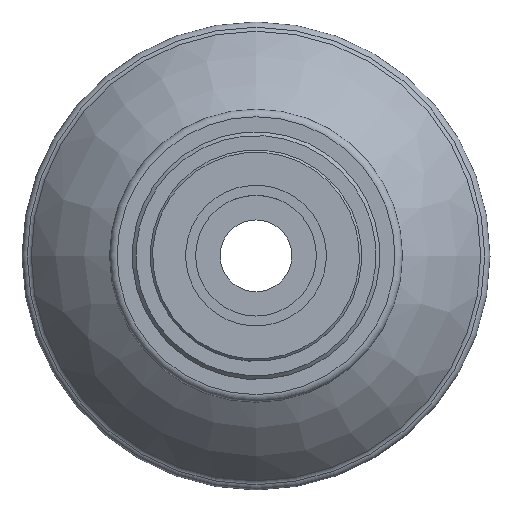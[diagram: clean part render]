
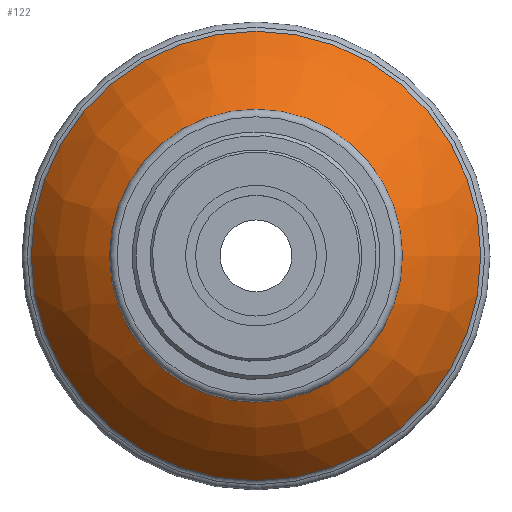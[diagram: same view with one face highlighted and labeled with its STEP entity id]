
A CAD part, top view. The second image highlights one B-rep face of the part: STEP entity #122.
In plain terms, the highlighted free-form (B-spline) face has degree [3, 3] with [4, 7] control points.
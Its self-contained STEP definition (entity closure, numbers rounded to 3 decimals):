
#122 = ADVANCED_FACE( '', ( #276, #277 ), #278, .T. );
#276 = FACE_OUTER_BOUND( '', #560, .T. );
#277 = FACE_OUTER_BOUND( '', #561, .T. );
#278 = ( BOUNDED_SURFACE(  )B_SPLINE_SURFACE( 3, 3, ( ( #564, #565, #566, #567, #568, #569, #570 ), ( #571, #572, #573, #574, #575, #576, #577 ), ( #578, #579, #580, #581, #582, #583, #584 ), ( #585, #586, #587, #588, #589, #590, #591 ) ), .UNSPECIFIED., .F., .T., .F. )B_SPLINE_SURFACE_WITH_KNOTS( ( 4, 4 ), ( 4, 3, 4 ), ( 0., 6.283 ), ( 0.587, 0.81, 1.033 ), .UNSPECIFIED. )GEOMETRIC_REPRESENTATION_ITEM(  )RATIONAL_B_SPLINE_SURFACE( ( ( 1., 0.333, 0.333, 1., 0.333, 0.333, 1. ), ( 0.983, 0.328, 0.328, 0.983, 0.328, 0.328, 0.983 ), ( 0.983, 0.328, 0.328, 0.983, 0.328, 0.328, 0.983 ), ( 1., 0.333, 0.333, 1., 0.333, 0.333, 1. ) ) )REPRESENTATION_ITEM( '' )SURFACE(  ) );
#560 = EDGE_LOOP( '', ( #825 ) );
#561 = EDGE_LOOP( '', ( #826 ) );
#564 = CARTESIAN_POINT( '', ( 18.517, 0., -1.806 ) );
#565 = CARTESIAN_POINT( '', ( 18.517, 37.033, -1.806 ) );
#566 = CARTESIAN_POINT( '', ( -18.517, 37.033, -1.806 ) );
#567 = CARTESIAN_POINT( '', ( -18.517, 0., -1.806 ) );
#568 = CARTESIAN_POINT( '', ( -18.517, -37.033, -1.806 ) );
#569 = CARTESIAN_POINT( '', ( 18.517, -37.033, -1.806 ) );
#570 = CARTESIAN_POINT( '', ( 18.517, 0., -1.806 ) );
#571 = CARTESIAN_POINT( '', ( 23.038, 0., -4.5 ) );
#572 = CARTESIAN_POINT( '', ( 23.038, 46.076, -4.5 ) );
#573 = CARTESIAN_POINT( '', ( -23.038, 46.076, -4.5 ) );
#574 = CARTESIAN_POINT( '', ( -23.038, 0., -4.5 ) );
#575 = CARTESIAN_POINT( '', ( -23.038, -46.076, -4.5 ) );
#576 = CARTESIAN_POINT( '', ( 23.038, -46.076, -4.5 ) );
#577 = CARTESIAN_POINT( '', ( 23.038, 0., -4.5 ) );
#578 = CARTESIAN_POINT( '', ( 26.851, 0., -8.127 ) );
#579 = CARTESIAN_POINT( '', ( 26.851, 53.703, -8.127 ) );
#580 = CARTESIAN_POINT( '', ( -26.851, 53.703, -8.127 ) );
#581 = CARTESIAN_POINT( '', ( -26.851, 0., -8.127 ) );
#582 = CARTESIAN_POINT( '', ( -26.851, -53.703, -8.127 ) );
#583 = CARTESIAN_POINT( '', ( 26.851, -53.703, -8.127 ) );
#584 = CARTESIAN_POINT( '', ( 26.851, 0., -8.127 ) );
#585 = CARTESIAN_POINT( '', ( 29.768, 0., -12.508 ) );
#586 = CARTESIAN_POINT( '', ( 29.768, 59.535, -12.508 ) );
#587 = CARTESIAN_POINT( '', ( -29.768, 59.535, -12.508 ) );
#588 = CARTESIAN_POINT( '', ( -29.768, 0., -12.508 ) );
#589 = CARTESIAN_POINT( '', ( -29.768, -59.535, -12.508 ) );
#590 = CARTESIAN_POINT( '', ( 29.768, -59.535, -12.508 ) );
#591 = CARTESIAN_POINT( '', ( 29.768, 0., -12.508 ) );
#825 = ORIENTED_EDGE( '', *, *, #1072, .T. );
#826 = ORIENTED_EDGE( '', *, *, #1073, .F. );
#1072 = EDGE_CURVE( '', #1197, #1197, #1198, .T. );
#1073 = EDGE_CURVE( '', #1199, #1199, #1200, .T. );
#1197 = VERTEX_POINT( '', #1347 );
#1198 = CIRCLE( '', #1348, 29.768 );
#1199 = VERTEX_POINT( '', #1349 );
#1200 = CIRCLE( '', #1350, 18.517 );
#1347 = CARTESIAN_POINT( '', ( 29.768, 0., -12.508 ) );
#1348 = AXIS2_PLACEMENT_3D( '', #1506, #1507, #1508 );
#1349 = CARTESIAN_POINT( '', ( 18.517, 0., -1.806 ) );
#1350 = AXIS2_PLACEMENT_3D( '', #1509, #1510, #1511 );
#1506 = CARTESIAN_POINT( '', ( 0., 0., -12.508 ) );
#1507 = DIRECTION( '', ( 0., 0., 1. ) );
#1508 = DIRECTION( '', ( 1., 0., 0. ) );
#1509 = CARTESIAN_POINT( '', ( 0., 0., -1.806 ) );
#1510 = DIRECTION( '', ( 0., 0., 1. ) );
#1511 = DIRECTION( '', ( 1., 0., 0. ) );
